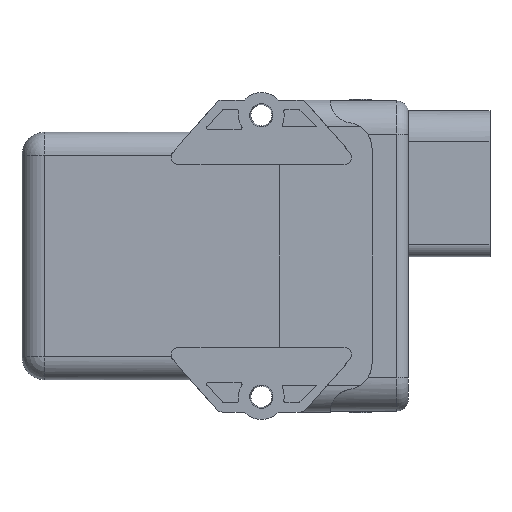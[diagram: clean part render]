
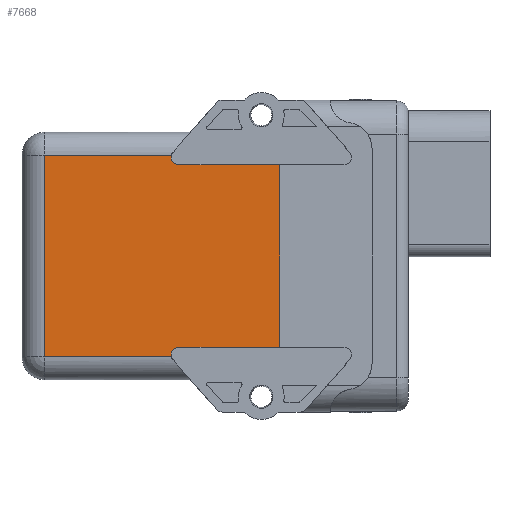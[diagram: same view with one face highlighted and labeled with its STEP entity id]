
A CAD part, front view. The second image highlights one B-rep face of the part: STEP entity #7668.
In plain terms, the highlighted planar face has unit normal (-0.018, -1, 0).
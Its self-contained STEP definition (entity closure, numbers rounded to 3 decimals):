
#42=ELLIPSE('',#8048,2.,2.);
#43=ELLIPSE('',#8049,2.,2.);
#314=LINE('',#10662,#898);
#315=LINE('',#10664,#899);
#316=LINE('',#10666,#900);
#317=LINE('',#10670,#901);
#318=LINE('',#10672,#902);
#319=LINE('',#10674,#903);
#898=VECTOR('',#8798,1000.);
#899=VECTOR('',#8799,1000.);
#900=VECTOR('',#8800,1000.);
#901=VECTOR('',#8803,1000.);
#902=VECTOR('',#8804,1000.);
#903=VECTOR('',#8805,1000.);
#1578=ORIENTED_EDGE('',*,*,#3211,.F.);
#1579=ORIENTED_EDGE('',*,*,#3212,.F.);
#1580=ORIENTED_EDGE('',*,*,#3213,.T.);
#1581=ORIENTED_EDGE('',*,*,#3214,.F.);
#1582=ORIENTED_EDGE('',*,*,#3215,.F.);
#1583=ORIENTED_EDGE('',*,*,#3216,.T.);
#1584=ORIENTED_EDGE('',*,*,#3217,.T.);
#1585=ORIENTED_EDGE('',*,*,#3218,.T.);
#3211=EDGE_CURVE('',#4020,#4021,#42,.T.);
#3212=EDGE_CURVE('',#4022,#4020,#314,.T.);
#3213=EDGE_CURVE('',#4022,#4023,#315,.T.);
#3214=EDGE_CURVE('',#4024,#4023,#316,.T.);
#3215=EDGE_CURVE('',#4025,#4024,#43,.T.);
#3216=EDGE_CURVE('',#4025,#4026,#317,.T.);
#3217=EDGE_CURVE('',#4026,#4027,#318,.T.);
#3218=EDGE_CURVE('',#4027,#4021,#319,.T.);
#4020=VERTEX_POINT('',#10660);
#4021=VERTEX_POINT('',#10661);
#4022=VERTEX_POINT('',#10663);
#4023=VERTEX_POINT('',#10665);
#4024=VERTEX_POINT('',#10667);
#4025=VERTEX_POINT('',#10669);
#4026=VERTEX_POINT('',#10671);
#4027=VERTEX_POINT('',#10673);
#4614=EDGE_LOOP('',(#1578,#1579,#1580,#1581,#1582,#1583,#1584,#1585));
#4960=FACE_BOUND('',#4614,.T.);
#5277=PLANE('',#8047);
#7668=ADVANCED_FACE('',(#4960),#5277,.T.);
#8047=AXIS2_PLACEMENT_3D('',#10658,#8794,#8795);
#8048=AXIS2_PLACEMENT_3D('',#10659,#8796,#8797);
#8049=AXIS2_PLACEMENT_3D('',#10668,#8801,#8802);
#8794=DIRECTION('',(-0.017,-1.,0.));
#8795=DIRECTION('',(1.,-0.017,0.));
#8796=DIRECTION('',(-0.017,-1.,0.));
#8797=DIRECTION('',(-1.,0.017,0.));
#8798=DIRECTION('',(-1.,0.017,0.));
#8799=DIRECTION('',(0.,0.,1.));
#8800=DIRECTION('',(1.,-0.017,0.));
#8801=DIRECTION('',(-0.017,-1.,0.));
#8802=DIRECTION('',(-1.,0.017,0.));
#8803=DIRECTION('',(-1.,0.017,0.));
#8804=DIRECTION('',(0.,0.,-1.));
#8805=DIRECTION('',(1.,-0.017,0.));
#10658=CARTESIAN_POINT('',(90.614,-0.3,50.));
#10659=CARTESIAN_POINT('',(41.232,0.562,-26.));
#10660=CARTESIAN_POINT('',(41.232,0.562,-24.));
#10661=CARTESIAN_POINT('',(39.303,0.596,-26.53));
#10662=CARTESIAN_POINT('',(90.614,-0.3,-24.));
#10663=CARTESIAN_POINT('',(67.698,0.1,-24.));
#10664=CARTESIAN_POINT('',(67.698,0.1,50.));
#10665=CARTESIAN_POINT('',(67.698,0.1,24.));
#10666=CARTESIAN_POINT('',(90.614,-0.3,24.));
#10667=CARTESIAN_POINT('',(41.232,0.562,24.));
#10668=CARTESIAN_POINT('',(41.232,0.562,26.));
#10669=CARTESIAN_POINT('',(39.303,0.596,26.53));
#10670=CARTESIAN_POINT('',(6.,1.177,26.53));
#10671=CARTESIAN_POINT('',(5.895,1.179,26.53));
#10672=CARTESIAN_POINT('',(5.895,1.179,-26.53));
#10673=CARTESIAN_POINT('',(5.895,1.179,-26.53));
#10674=CARTESIAN_POINT('',(66.003,0.13,-26.53));
